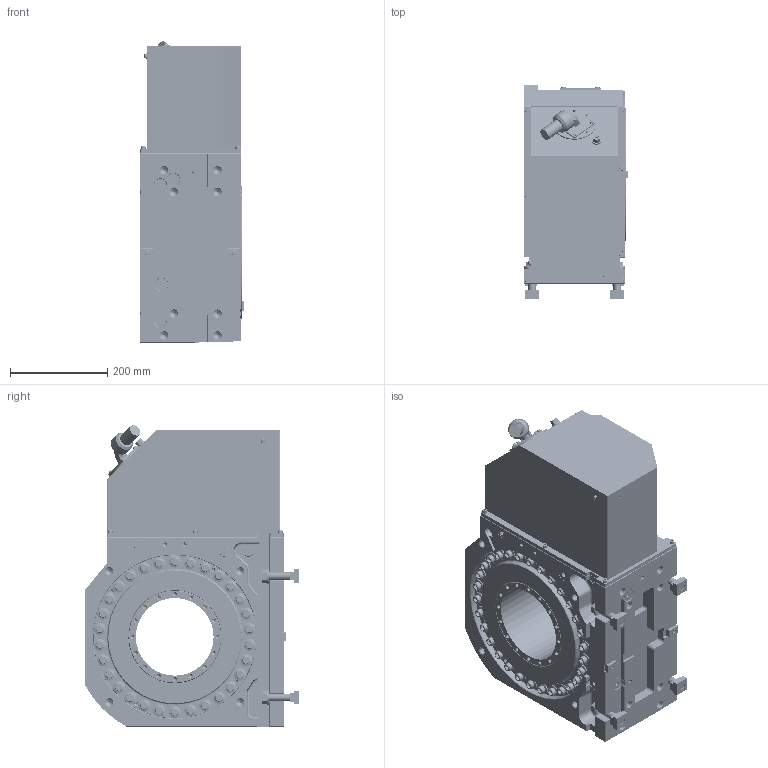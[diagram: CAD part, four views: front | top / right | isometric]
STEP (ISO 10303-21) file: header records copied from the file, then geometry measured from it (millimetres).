
FILE_DESCRIPTION (( 'STEP AP214' ), '1' );
FILE_NAME ('OUTSIDE_VIEW(61E2896150)MK350LHV00.STEP', '2021-10-14T22:19:53', ( '' ), ( '' ), 'SwSTEP 2.0', 'SolidWorks 2020', '' );
FILE_SCHEMA (( 'AUTOMOTIVE_DESIGN' ));
Length unit declared in the file: millimetre
Products named in the file (5): OUTSIDE_VIEW(61E2896150)MK350LHV00; BODY_MK350LH00; 儌乕僞働乕僗PAD_MK350LHV00; クランプクミタテ(61E488758); TABLE_MK350LH00
Assembly tree (7 placements, depth 2):
  OUTSIDE_VIEW(61E2896150)MK350LHV00
    BODY_MK350LH00
    TABLE_MK350LH00
    儌乕僞働乕僗PAD_MK350LHV00
    クランプクミタテ(61E488758)  x4
Bounding box: 215 x 441 x 621.2 mm (x, y, z)
Volume: 37362390.5 mm3; surface area: 1787116.9 mm2
Topology: 7 solids, 95 shells, 5053 faces, 12591 edges, 7884 vertices
Faces by surface type: plane 2758, cylinder 1261, cone 938, torus 57, bspline 20, sphere 19
Entity records: 151130 total; most frequent: CARTESIAN_POINT 29872, DIRECTION 25004, ORIENTED_EDGE 24246, EDGE_CURVE 12123, LINE 8420, VECTOR 8420, AXIS2_PLACEMENT_3D 8292, VERTEX_POINT 7728
